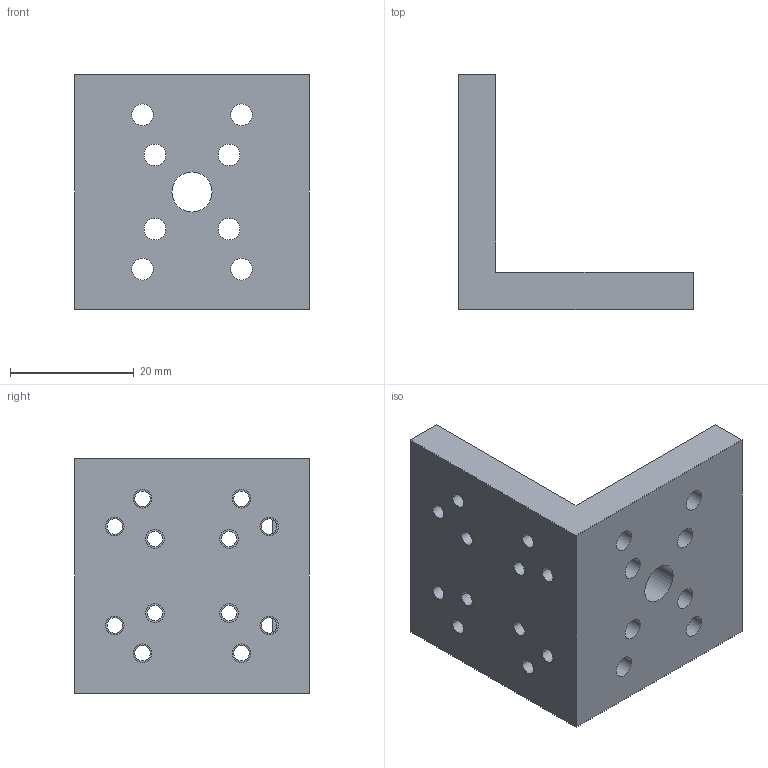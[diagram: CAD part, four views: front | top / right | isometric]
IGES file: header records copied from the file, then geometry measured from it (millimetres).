
Start section:  PTC IGES file: EA01S.igs
Global section: file name: EA01S.igs; native system: Pro/ENGINEER by Parametric Technology Corporation; preprocessor: 2006460; author: user; organization: Unknown; date: 20130717.170444; units: millimetre
Bounding box: 38 x 38 x 38 mm (x, y, z)
Surface area: 8177.2 mm2 (no closed solid volume)
Topology: 0 solids, 0 shells, 76 faces, 400 edges, 400 vertices
Faces by surface type: revolution 66, bspline 10
